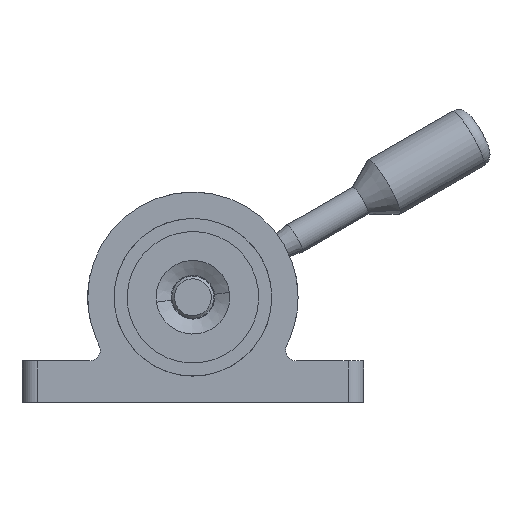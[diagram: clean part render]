
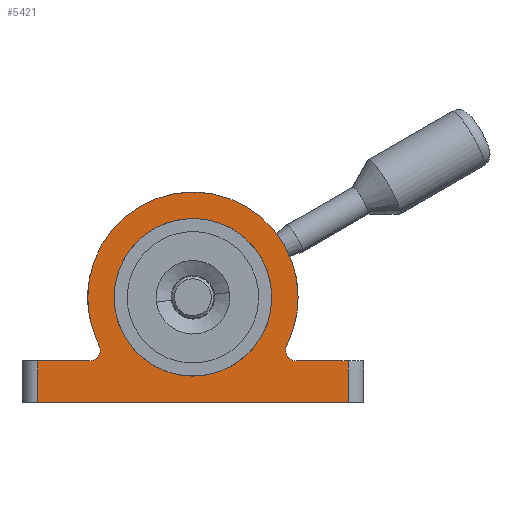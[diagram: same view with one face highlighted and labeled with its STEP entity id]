
A CAD part, front view. The second image highlights one B-rep face of the part: STEP entity #5421.
In plain terms, the highlighted planar face has unit normal (0, -1, 0) as drawn and (0, 0, -1) by its records, which use the part's own axes.
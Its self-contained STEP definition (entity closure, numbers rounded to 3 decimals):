
#232 = AXIS2_PLACEMENT_3D ( 'NONE', #11479, #83676, #21835 ) ;
#816 = EDGE_CURVE ( 'NONE', #89189, #105149, #66527, .T. ) ;
#919 = DIRECTION ( 'NONE',  ( 0.383, -0.924, 0. ) ) ;
#1150 = CARTESIAN_POINT ( 'NONE',  ( 29.5, 0., 0. ) ) ;
#1188 = AXIS2_PLACEMENT_3D ( 'NONE', #44290, #116470, #54648 ) ;
#1882 = DIRECTION ( 'NONE',  ( 0., 0., 1. ) ) ;
#2888 = VERTEX_POINT ( 'NONE', #87889 ) ;
#3923 = VERTEX_POINT ( 'NONE', #106520 ) ;
#4434 = CIRCLE ( 'NONE', #87005, 20. ) ;
#4500 = ORIENTED_EDGE ( 'NONE', *, *, #7216, .F. ) ;
#5004 = VECTOR ( 'NONE', #919, 1000. ) ;
#5163 = ORIENTED_EDGE ( 'NONE', *, *, #115461, .F. ) ;
#5421 = ADVANCED_FACE ( 'NONE', ( #103566, #76071 ), #61483, .F. ) ;
#6056 = LINE ( 'NONE', #33564, #54441 ) ;
#6589 = CARTESIAN_POINT ( 'NONE',  ( 18.478, -7.654, 0. ) ) ;
#7216 = EDGE_CURVE ( 'NONE', #90428, #80076, #32463, .T. ) ;
#10471 = DIRECTION ( 'NONE',  ( 1., 0., 0. ) ) ;
#11479 = CARTESIAN_POINT ( 'NONE',  ( 0., 0., 0. ) ) ;
#11931 = ORIENTED_EDGE ( 'NONE', *, *, #86848, .T. ) ;
#12028 = AXIS2_PLACEMENT_3D ( 'NONE', #34936, #107105, #45329 ) ;
#13457 = EDGE_CURVE ( 'NONE', #26974, #42478, #50142, .T. ) ;
#14802 = CARTESIAN_POINT ( 'NONE',  ( -29.5, 0., 0. ) ) ;
#18116 = VECTOR ( 'NONE', #87015, 1000. ) ;
#20692 = CARTESIAN_POINT ( 'NONE',  ( 0., 0., 0. ) ) ;
#21835 = DIRECTION ( 'NONE',  ( 1., 0., 0. ) ) ;
#23798 = VECTOR ( 'NONE', #68422, 1000. ) ;
#23964 = VECTOR ( 'NONE', #100779, 1000. ) ;
#24282 = CIRCLE ( 'NONE', #12028, 20. ) ;
#25488 = ORIENTED_EDGE ( 'NONE', *, *, #54512, .F. ) ;
#25501 = CARTESIAN_POINT ( 'NONE',  ( 29.5, -12.1, 0. ) ) ;
#26728 = CARTESIAN_POINT ( 'NONE',  ( 19.629, -10.1, 0. ) ) ;
#26974 = VERTEX_POINT ( 'NONE', #29576 ) ;
#27690 = EDGE_CURVE ( 'NONE', #132213, #105149, #80421, .T. ) ;
#29332 = AXIS2_PLACEMENT_3D ( 'NONE', #63694, #1882, #74073 ) ;
#29360 = EDGE_CURVE ( 'NONE', #92791, #98764, #64177, .T. ) ;
#29576 = CARTESIAN_POINT ( 'NONE',  ( 17.629, -10.1, 0. ) ) ;
#30153 = EDGE_CURVE ( 'NONE', #92791, #2888, #6056, .T. ) ;
#31095 = DIRECTION ( 'NONE',  ( 1., 0., 0. ) ) ;
#31341 = DIRECTION ( 'NONE',  ( -1., 0., 0. ) ) ;
#32228 = AXIS2_PLACEMENT_3D ( 'NONE', #113349, #72286, #10471 ) ;
#32463 = LINE ( 'NONE', #42004, #5004 ) ;
#32726 = VERTEX_POINT ( 'NONE', #47453 ) ;
#33309 = ORIENTED_EDGE ( 'NONE', *, *, #109363, .F. ) ;
#33564 = CARTESIAN_POINT ( 'NONE',  ( 19.629, -12.1, 0. ) ) ;
#34411 = EDGE_CURVE ( 'NONE', #101572, #90428, #24282, .T. ) ;
#34693 = ORIENTED_EDGE ( 'NONE', *, *, #57415, .T. ) ;
#34936 = CARTESIAN_POINT ( 'NONE',  ( 0., 0., 0. ) ) ;
#35169 = ORIENTED_EDGE ( 'NONE', *, *, #816, .T. ) ;
#37134 = DIRECTION ( 'NONE',  ( -1., 0., 0. ) ) ;
#40160 = CARTESIAN_POINT ( 'NONE',  ( 0., 0., 0. ) ) ;
#42004 = CARTESIAN_POINT ( 'NONE',  ( -18.478, -7.654, 0. ) ) ;
#42478 = VERTEX_POINT ( 'NONE', #56158 ) ;
#42667 = DIRECTION ( 'NONE',  ( 0., -1., 0. ) ) ;
#44290 = CARTESIAN_POINT ( 'NONE',  ( 19.629, -10.1, 0. ) ) ;
#45329 = DIRECTION ( 'NONE',  ( 1., 0., 0. ) ) ;
#45804 = ORIENTED_EDGE ( 'NONE', *, *, #52773, .F. ) ;
#46499 = DIRECTION ( 'NONE',  ( 0., 0., -1. ) ) ;
#46828 = ORIENTED_EDGE ( 'NONE', *, *, #61820, .F. ) ;
#47453 = CARTESIAN_POINT ( 'NONE',  ( 15., 0., 0. ) ) ;
#47986 = CARTESIAN_POINT ( 'NONE',  ( -29.5, -12.1, 0. ) ) ;
#48912 = CARTESIAN_POINT ( 'NONE',  ( -32.5, -20., 0. ) ) ;
#49134 = ORIENTED_EDGE ( 'NONE', *, *, #30153, .F. ) ;
#50142 = CIRCLE ( 'NONE', #1188, 2. ) ;
#50536 = DIRECTION ( 'NONE',  ( 1., 0., 0. ) ) ;
#51185 = ORIENTED_EDGE ( 'NONE', *, *, #107879, .F. ) ;
#52773 = EDGE_CURVE ( 'NONE', #70810, #3923, #77155, .T. ) ;
#52927 = VECTOR ( 'NONE', #31341, 1000. ) ;
#54441 = VECTOR ( 'NONE', #85469, 1000. ) ;
#54476 = CIRCLE ( 'NONE', #87541, 2. ) ;
#54498 = LINE ( 'NONE', #6589, #23798 ) ;
#54512 = EDGE_CURVE ( 'NONE', #80076, #132213, #54476, .T. ) ;
#54648 = DIRECTION ( 'NONE',  ( -1., 0., 0. ) ) ;
#54793 = ORIENTED_EDGE ( 'NONE', *, *, #29360, .T. ) ;
#56158 = CARTESIAN_POINT ( 'NONE',  ( 17.781, -9.335, 0. ) ) ;
#57415 = EDGE_CURVE ( 'NONE', #95597, #32726, #101285, .T. ) ;
#58150 = AXIS2_PLACEMENT_3D ( 'NONE', #26728, #98930, #37134 ) ;
#58190 = CARTESIAN_POINT ( 'NONE',  ( -29.5, -20., 0. ) ) ;
#61483 = PLANE ( 'NONE',  #32228 ) ;
#61820 = EDGE_CURVE ( 'NONE', #42478, #70810, #54498, .T. ) ;
#63694 = CARTESIAN_POINT ( 'NONE',  ( 0., 0., 0. ) ) ;
#64177 = LINE ( 'NONE', #1150, #115821 ) ;
#66527 = LINE ( 'NONE', #14802, #18116 ) ;
#67037 = CARTESIAN_POINT ( 'NONE',  ( -15., 0., 0. ) ) ;
#67188 = CARTESIAN_POINT ( 'NONE',  ( -18.478, -7.654, 0. ) ) ;
#68422 = DIRECTION ( 'NONE',  ( 0.383, 0.924, 0. ) ) ;
#68587 = AXIS2_PLACEMENT_3D ( 'NONE', #20692, #92902, #31095 ) ;
#70810 = VERTEX_POINT ( 'NONE', #84616 ) ;
#72286 = DIRECTION ( 'NONE',  ( 0., 0., 1. ) ) ;
#72400 = CARTESIAN_POINT ( 'NONE',  ( -32.5, -12.1, 0. ) ) ;
#74073 = DIRECTION ( 'NONE',  ( 1., 0., 0. ) ) ;
#76071 = FACE_BOUND ( 'NONE', #95973, .T. ) ;
#77155 = CIRCLE ( 'NONE', #232, 20. ) ;
#80076 = VERTEX_POINT ( 'NONE', #110658 ) ;
#80421 = LINE ( 'NONE', #72400, #52927 ) ;
#83676 = DIRECTION ( 'NONE',  ( 0., 0., 1. ) ) ;
#83985 = CIRCLE ( 'NONE', #29332, 15. ) ;
#84616 = CARTESIAN_POINT ( 'NONE',  ( 18.478, -7.654, 0. ) ) ;
#85469 = DIRECTION ( 'NONE',  ( -1., 0., 0. ) ) ;
#86848 = EDGE_CURVE ( 'NONE', #32726, #95597, #83985, .T. ) ;
#87005 = AXIS2_PLACEMENT_3D ( 'NONE', #40160, #112328, #50536 ) ;
#87015 = DIRECTION ( 'NONE',  ( 0., 1., 0. ) ) ;
#87541 = AXIS2_PLACEMENT_3D ( 'NONE', #108274, #46499, #118675 ) ;
#87889 = CARTESIAN_POINT ( 'NONE',  ( 19.629, -12.1, 0. ) ) ;
#89189 = VERTEX_POINT ( 'NONE', #58190 ) ;
#90428 = VERTEX_POINT ( 'NONE', #67188 ) ;
#92791 = VERTEX_POINT ( 'NONE', #25501 ) ;
#92902 = DIRECTION ( 'NONE',  ( 0., 0., 1. ) ) ;
#93443 = CIRCLE ( 'NONE', #58150, 2. ) ;
#94173 = EDGE_LOOP ( 'NONE', ( #49134, #54793, #51185, #35169, #127285, #25488, #4500, #106043, #5163, #45804, #46828, #113918, #33309 ) ) ;
#95597 = VERTEX_POINT ( 'NONE', #67037 ) ;
#95973 = EDGE_LOOP ( 'NONE', ( #11931, #34693 ) ) ;
#98764 = VERTEX_POINT ( 'NONE', #109358 ) ;
#98930 = DIRECTION ( 'NONE',  ( 0., 0., -1. ) ) ;
#100779 = DIRECTION ( 'NONE',  ( 1., 0., 0. ) ) ;
#101285 = CIRCLE ( 'NONE', #68587, 15. ) ;
#101572 = VERTEX_POINT ( 'NONE', #107101 ) ;
#103566 = FACE_OUTER_BOUND ( 'NONE', #94173, .T. ) ;
#105149 = VERTEX_POINT ( 'NONE', #47986 ) ;
#106043 = ORIENTED_EDGE ( 'NONE', *, *, #34411, .F. ) ;
#106520 = CARTESIAN_POINT ( 'NONE',  ( 20., 0., 0. ) ) ;
#107101 = CARTESIAN_POINT ( 'NONE',  ( -20., 0., 0. ) ) ;
#107105 = DIRECTION ( 'NONE',  ( 0., 0., 1. ) ) ;
#107879 = EDGE_CURVE ( 'NONE', #89189, #98764, #109583, .T. ) ;
#108274 = CARTESIAN_POINT ( 'NONE',  ( -19.629, -10.1, 0. ) ) ;
#109358 = CARTESIAN_POINT ( 'NONE',  ( 29.5, -20., 0. ) ) ;
#109363 = EDGE_CURVE ( 'NONE', #2888, #26974, #93443, .T. ) ;
#109583 = LINE ( 'NONE', #48912, #23964 ) ;
#110658 = CARTESIAN_POINT ( 'NONE',  ( -17.781, -9.335, 0. ) ) ;
#112328 = DIRECTION ( 'NONE',  ( 0., 0., 1. ) ) ;
#113349 = CARTESIAN_POINT ( 'NONE',  ( 0., 0., 0. ) ) ;
#113918 = ORIENTED_EDGE ( 'NONE', *, *, #13457, .F. ) ;
#115461 = EDGE_CURVE ( 'NONE', #3923, #101572, #4434, .T. ) ;
#115821 = VECTOR ( 'NONE', #42667, 1000. ) ;
#116470 = DIRECTION ( 'NONE',  ( 0., 0., -1. ) ) ;
#118675 = DIRECTION ( 'NONE',  ( 1., 0., 0. ) ) ;
#125795 = CARTESIAN_POINT ( 'NONE',  ( -19.629, -12.1, 0. ) ) ;
#127285 = ORIENTED_EDGE ( 'NONE', *, *, #27690, .F. ) ;
#132213 = VERTEX_POINT ( 'NONE', #125795 ) ;
